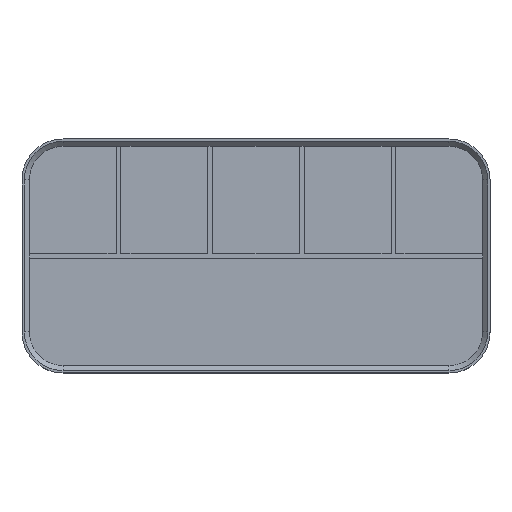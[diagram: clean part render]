
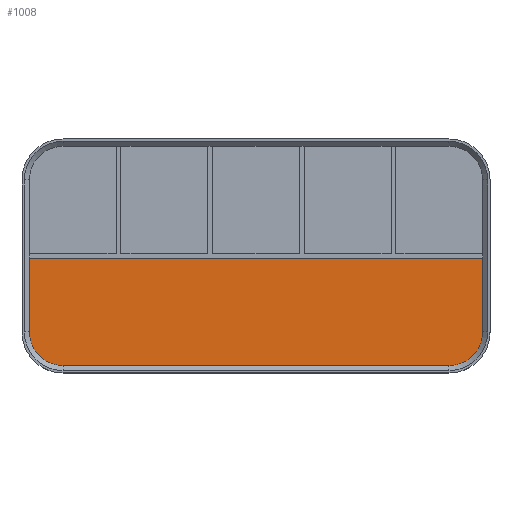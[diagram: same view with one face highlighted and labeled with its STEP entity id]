
A CAD part, top view. The second image highlights one B-rep face of the part: STEP entity #1008.
In plain terms, the highlighted planar face has unit normal (0, 0, 1).
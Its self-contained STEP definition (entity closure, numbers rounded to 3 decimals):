
#37=CIRCLE('',#1085,14.);
#38=CIRCLE('',#1086,14.);
#90=FACE_OUTER_BOUND('',#151,.T.);
#151=EDGE_LOOP('',(#758,#759,#760,#761,#762,#763));
#195=LINE('',#1469,#309);
#247=LINE('',#1571,#361);
#254=LINE('',#1586,#368);
#260=LINE('',#1602,#374);
#309=VECTOR('',#1164,10.);
#361=VECTOR('',#1244,10.);
#368=VECTOR('',#1257,10.);
#374=VECTOR('',#1275,10.);
#423=VERTEX_POINT('',#1467);
#424=VERTEX_POINT('',#1468);
#460=VERTEX_POINT('',#1569);
#465=VERTEX_POINT('',#1585);
#468=VERTEX_POINT('',#1599);
#469=VERTEX_POINT('',#1601);
#511=EDGE_CURVE('',#423,#424,#195,.T.);
#563=EDGE_CURVE('',#460,#424,#247,.T.);
#570=EDGE_CURVE('',#423,#465,#254,.T.);
#577=EDGE_CURVE('',#468,#460,#37,.T.);
#578=EDGE_CURVE('',#469,#468,#260,.T.);
#579=EDGE_CURVE('',#465,#469,#38,.T.);
#758=ORIENTED_EDGE('',*,*,#511,.T.);
#759=ORIENTED_EDGE('',*,*,#563,.F.);
#760=ORIENTED_EDGE('',*,*,#577,.F.);
#761=ORIENTED_EDGE('',*,*,#578,.F.);
#762=ORIENTED_EDGE('',*,*,#579,.F.);
#763=ORIENTED_EDGE('',*,*,#570,.F.);
#967=PLANE('',#1084);
#1008=ADVANCED_FACE('',(#90),#967,.T.);
#1084=AXIS2_PLACEMENT_3D('',#1598,#1271,#1272);
#1085=AXIS2_PLACEMENT_3D('',#1600,#1273,#1274);
#1086=AXIS2_PLACEMENT_3D('',#1603,#1276,#1277);
#1164=DIRECTION('',(-1.,0.,0.));
#1244=DIRECTION('',(0.,1.,0.));
#1257=DIRECTION('',(0.,-1.,0.));
#1271=DIRECTION('center_axis',(0.,0.,1.));
#1272=DIRECTION('ref_axis',(1.,0.,0.));
#1273=DIRECTION('center_axis',(0.,0.,-1.));
#1274=DIRECTION('ref_axis',(-1.,0.,0.));
#1275=DIRECTION('',(-1.,0.,0.));
#1276=DIRECTION('center_axis',(0.,0.,-1.));
#1277=DIRECTION('ref_axis',(0.,-1.,0.));
#1467=CARTESIAN_POINT('',(191.,47.5,3.));
#1468=CARTESIAN_POINT('',(3.,47.5,3.));
#1469=CARTESIAN_POINT('',(50.,47.5,3.));
#1569=CARTESIAN_POINT('',(3.,17.,3.));
#1571=CARTESIAN_POINT('',(3.,32.75,3.));
#1585=CARTESIAN_POINT('',(191.,17.,3.));
#1586=CARTESIAN_POINT('',(191.,64.25,3.));
#1598=CARTESIAN_POINT('Origin',(97.,48.5,3.));
#1599=CARTESIAN_POINT('',(17.,3.,3.));
#1600=CARTESIAN_POINT('Origin',(17.,17.,3.));
#1601=CARTESIAN_POINT('',(177.,3.,3.));
#1602=CARTESIAN_POINT('',(137.,3.,3.));
#1603=CARTESIAN_POINT('Origin',(177.,17.,3.));
